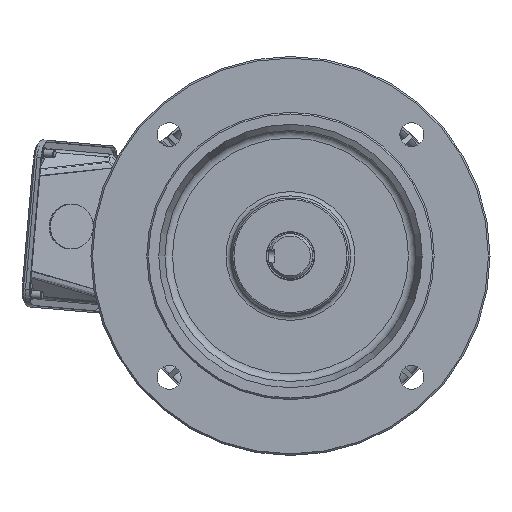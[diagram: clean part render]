
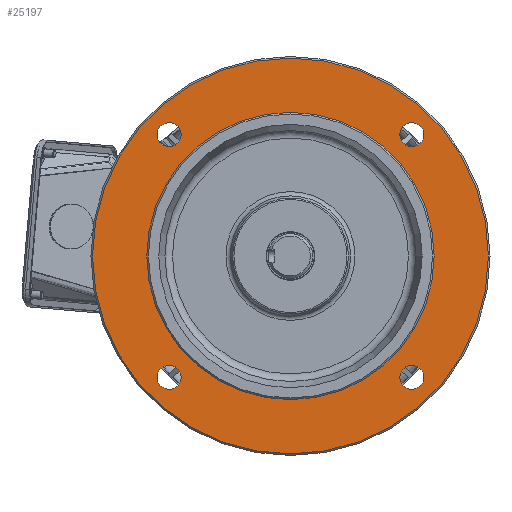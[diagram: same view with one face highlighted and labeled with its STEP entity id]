
A CAD part, front view. The second image highlights one B-rep face of the part: STEP entity #25197.
In plain terms, the highlighted planar face has unit normal (0, -1, 0).
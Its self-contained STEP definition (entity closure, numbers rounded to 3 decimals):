
#2184=CIRCLE('',#26999,90.);
#2185=CIRCLE('',#27001,124.);
#2186=CIRCLE('',#27002,7.5);
#2187=CIRCLE('',#27003,7.5);
#2188=CIRCLE('',#27004,7.5);
#2189=CIRCLE('',#27005,7.5);
#4703=ORIENTED_EDGE('',*,*,#10597,.T.);
#4704=ORIENTED_EDGE('',*,*,#10598,.F.);
#4705=ORIENTED_EDGE('',*,*,#10599,.F.);
#4706=ORIENTED_EDGE('',*,*,#10600,.F.);
#4707=ORIENTED_EDGE('',*,*,#10601,.F.);
#4708=ORIENTED_EDGE('',*,*,#10596,.F.);
#10596=EDGE_CURVE('',#13679,#13679,#2184,.T.);
#10597=EDGE_CURVE('',#13680,#13680,#2185,.T.);
#10598=EDGE_CURVE('',#13681,#13681,#2186,.T.);
#10599=EDGE_CURVE('',#13682,#13682,#2187,.T.);
#10600=EDGE_CURVE('',#13683,#13683,#2188,.T.);
#10601=EDGE_CURVE('',#13684,#13684,#2189,.T.);
#13679=VERTEX_POINT('',#39211);
#13680=VERTEX_POINT('',#39214);
#13681=VERTEX_POINT('',#39216);
#13682=VERTEX_POINT('',#39218);
#13683=VERTEX_POINT('',#39220);
#13684=VERTEX_POINT('',#39222);
#18024=EDGE_LOOP('',(#4703));
#18025=EDGE_LOOP('',(#4704));
#18026=EDGE_LOOP('',(#4705));
#18027=EDGE_LOOP('',(#4706));
#18028=EDGE_LOOP('',(#4707));
#18029=EDGE_LOOP('',(#4708));
#19802=FACE_BOUND('',#18024,.T.);
#19803=FACE_BOUND('',#18025,.T.);
#19804=FACE_BOUND('',#18026,.T.);
#19805=FACE_BOUND('',#18027,.T.);
#19806=FACE_BOUND('',#18028,.T.);
#19807=FACE_BOUND('',#18029,.T.);
#21323=PLANE('',#27000);
#25197=ADVANCED_FACE('',(#19802,#19803,#19804,#19805,#19806,#19807),#21323,
 .T.);
#26999=AXIS2_PLACEMENT_3D('',#39210,#30593,#30594);
#27000=AXIS2_PLACEMENT_3D('',#39212,#30595,#30596);
#27001=AXIS2_PLACEMENT_3D('',#39213,#30597,#30598);
#27002=AXIS2_PLACEMENT_3D('',#39215,#30599,#30600);
#27003=AXIS2_PLACEMENT_3D('',#39217,#30601,#30602);
#27004=AXIS2_PLACEMENT_3D('',#39219,#30603,#30604);
#27005=AXIS2_PLACEMENT_3D('',#39221,#30605,#30606);
#30593=DIRECTION('',(0.,-1.,0.));
#30594=DIRECTION('',(1.,0.,0.));
#30595=DIRECTION('',(0.,-1.,0.));
#30596=DIRECTION('',(1.,0.,0.));
#30597=DIRECTION('',(0.,-1.,0.));
#30598=DIRECTION('',(1.,0.,0.));
#30599=DIRECTION('',(0.,-1.,0.));
#30600=DIRECTION('',(0.,0.,1.));
#30601=DIRECTION('',(0.,-1.,0.));
#30602=DIRECTION('',(-1.,0.,0.));
#30603=DIRECTION('',(0.,-1.,0.));
#30604=DIRECTION('',(0.,0.,-1.));
#30605=DIRECTION('',(0.,-1.,0.));
#30606=DIRECTION('',(1.,0.,0.));
#39210=CARTESIAN_POINT('',(0.,4.,0.));
#39211=CARTESIAN_POINT('',(90.,4.,0.));
#39212=CARTESIAN_POINT('',(0.,4.,90.));
#39213=CARTESIAN_POINT('',(0.,4.,0.));
#39214=CARTESIAN_POINT('',(124.,4.,0.));
#39215=CARTESIAN_POINT('',(-76.014,4.,-76.014));
#39216=CARTESIAN_POINT('',(-76.014,4.,-68.514));
#39217=CARTESIAN_POINT('',(76.014,4.,-76.014));
#39218=CARTESIAN_POINT('',(68.514,4.,-76.014));
#39219=CARTESIAN_POINT('',(76.014,4.,76.014));
#39220=CARTESIAN_POINT('',(76.014,4.,68.514));
#39221=CARTESIAN_POINT('',(-76.014,4.,76.014));
#39222=CARTESIAN_POINT('',(-68.514,4.,76.014));
